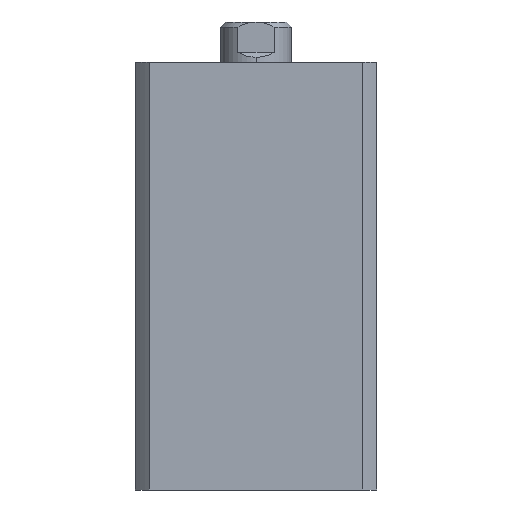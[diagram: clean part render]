
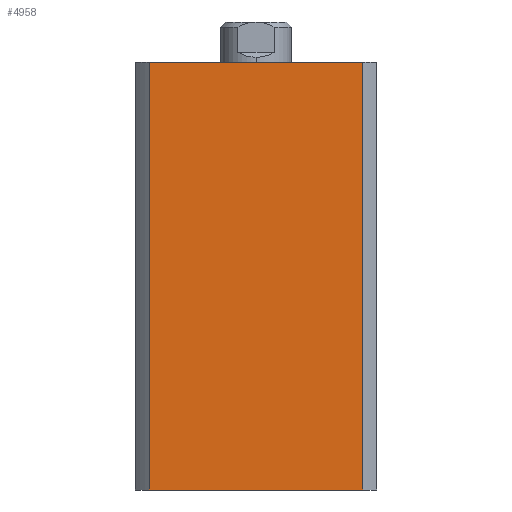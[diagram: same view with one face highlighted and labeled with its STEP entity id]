
A CAD part, left-side view. The second image highlights one B-rep face of the part: STEP entity #4958.
In plain terms, the highlighted planar face has unit normal (-1, 0, 0).
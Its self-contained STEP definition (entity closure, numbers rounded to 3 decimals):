
#143 = FACE_OUTER_BOUND ( 'NONE', #4802, .T. ) ;
#439 = ORIENTED_EDGE ( 'NONE', *, *, #4451, .T. ) ;
#440 = ORIENTED_EDGE ( 'NONE', *, *, #4419, .F. ) ;
#441 = ORIENTED_EDGE ( 'NONE', *, *, #4450, .F. ) ;
#442 = ORIENTED_EDGE ( 'NONE', *, *, #4449, .T. ) ;
#551 = VERTEX_POINT ( 'NONE', #4719 ) ;
#553 = VERTEX_POINT ( 'NONE', #4717 ) ;
#572 = VERTEX_POINT ( 'NONE', #4695 ) ;
#857 = VERTEX_POINT ( 'NONE', #4593 ) ;
#1424 = LINE ( 'NONE', #2419, #1426 ) ;
#1426 = VECTOR ( 'NONE', #2420, 1000. ) ;
#1438 = LINE ( 'NONE', #2576, #1463 ) ;
#1459 = LINE ( 'NONE', #2570, #1461 ) ;
#1460 = LINE ( 'NONE', #2575, #1465 ) ;
#1461 = VECTOR ( 'NONE', #2571, 1000. ) ;
#1463 = VECTOR ( 'NONE', #2581, 1000. ) ;
#1465 = VECTOR ( 'NONE', #2583, 1000. ) ;
#2419 = CARTESIAN_POINT ( 'NONE',  ( -24., 0., 85. ) ) ;
#2420 = DIRECTION ( 'NONE',  ( 0., -1., 0. ) ) ;
#2570 = CARTESIAN_POINT ( 'NONE',  ( -24., 0., 0. ) ) ;
#2571 = DIRECTION ( 'NONE',  ( 0., -1., 0. ) ) ;
#2575 = CARTESIAN_POINT ( 'NONE',  ( -24., 21.166, 85. ) ) ;
#2576 = CARTESIAN_POINT ( 'NONE',  ( -24., -21.166, 85. ) ) ;
#2581 = DIRECTION ( 'NONE',  ( 0., 0., -1. ) ) ;
#2583 = DIRECTION ( 'NONE',  ( 0., 0., -1. ) ) ;
#3227 = AXIS2_PLACEMENT_3D ( 'NONE', #3970, #3975, #3976 ) ;
#3970 = CARTESIAN_POINT ( 'NONE',  ( -24., 0., 85. ) ) ;
#3972 = PLANE ( 'NONE',  #3227 ) ;
#3975 = DIRECTION ( 'NONE',  ( 1., 0., 0. ) ) ;
#3976 = DIRECTION ( 'NONE',  ( 0., 0., -1. ) ) ;
#4419 = EDGE_CURVE ( 'NONE', #857, #551, #1424, .T. ) ;
#4449 = EDGE_CURVE ( 'NONE', #553, #572, #1459, .T. ) ;
#4450 = EDGE_CURVE ( 'NONE', #551, #572, #1438, .T. ) ;
#4451 = EDGE_CURVE ( 'NONE', #857, #553, #1460, .T. ) ;
#4593 = CARTESIAN_POINT ( 'NONE',  ( -24., 21.166, 85. ) ) ;
#4695 = CARTESIAN_POINT ( 'NONE',  ( -24., -21.166, 0. ) ) ;
#4717 = CARTESIAN_POINT ( 'NONE',  ( -24., 21.166, 0. ) ) ;
#4719 = CARTESIAN_POINT ( 'NONE',  ( -24., -21.166, 85. ) ) ;
#4802 = EDGE_LOOP ( 'NONE', ( #442, #441, #440, #439 ) ) ;
#4958 = ADVANCED_FACE ( 'NONE', ( #143 ), #3972, .F. ) ;
